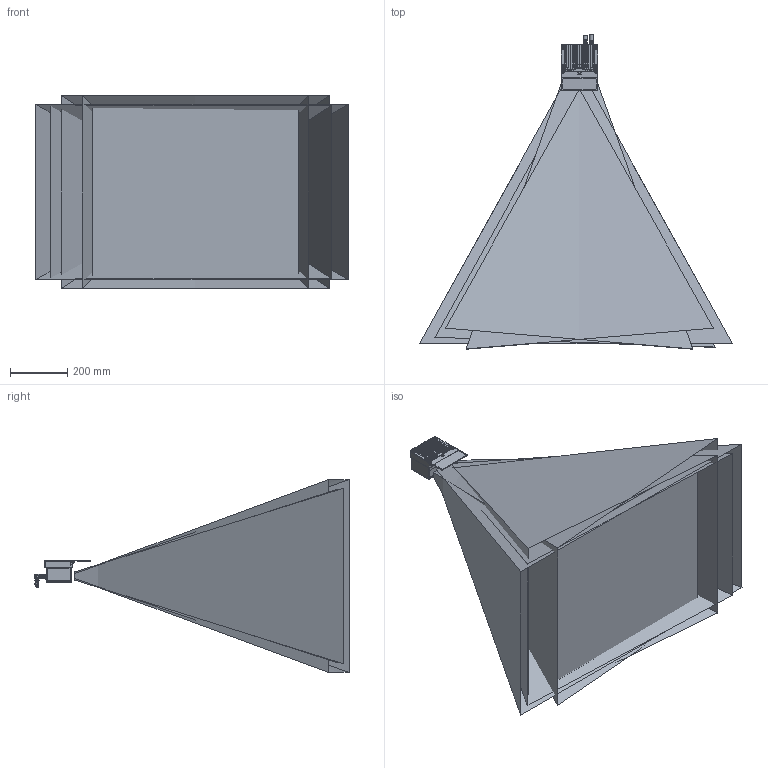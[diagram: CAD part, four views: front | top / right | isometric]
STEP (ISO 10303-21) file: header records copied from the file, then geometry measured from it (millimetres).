
FILE_DESCRIPTION((''),'2;1');
FILE_NAME('DPS250P--0002','2025-10-27T17:01:30',('yangtao11'),(''),'CREO PARAMETRIC BY PTC INC, 2020044','CREO PARAMETRIC BY PTC INC, 2020044','');
FILE_SCHEMA(('CONFIG_CONTROL_DESIGN','SHAPE_APPEARANCE_LAYERS_GROUPS'));
Products named in the file (1): DPS250P--0002
Bounding box: 1089.45 x 1094.62 x 671.68 mm (x, y, z)
Volume: 125100000 mm3; surface area: 8296290.6 mm2
Topology: 1 solids, 97 shells, 1568 faces, 5731 edges, 4184 vertices
Faces by surface type: plane 796, cylinder 486, cone 146, bspline 72, torus 68
Entity records: 116348 total; most frequent: CARTESIAN_POINT 66295, ORIENTED_EDGE 9359, DIRECTION 9148, EDGE_CURVE 5722, VERTEX_POINT 4184, AXIS2_PLACEMENT_3D 3069, VECTOR 3010, LINE 3010
